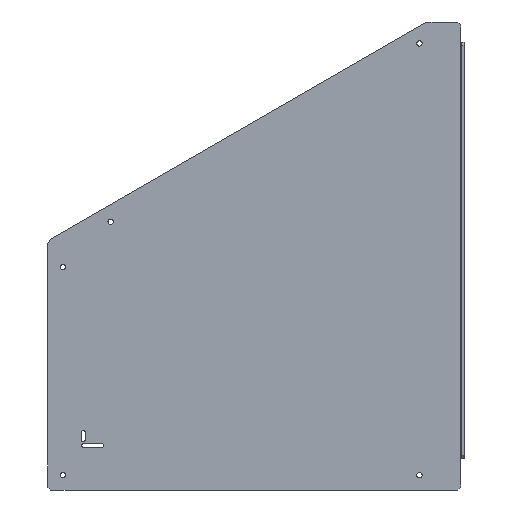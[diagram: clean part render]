
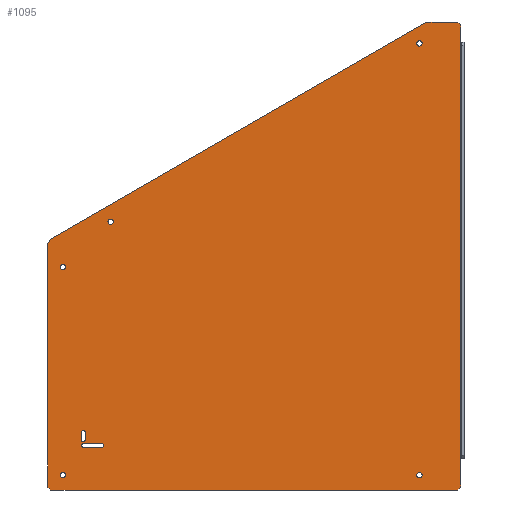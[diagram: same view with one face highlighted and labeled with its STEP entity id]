
A CAD part, front view. The second image highlights one B-rep face of the part: STEP entity #1095.
In plain terms, the highlighted planar face has unit normal (0, -1, 0).
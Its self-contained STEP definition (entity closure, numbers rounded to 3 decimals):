
#64=CIRCLE('',#1168,1.587);
#65=CIRCLE('',#1169,1.587);
#66=CIRCLE('',#1170,1.588);
#67=CIRCLE('',#1171,1.588);
#68=CIRCLE('',#1172,2.248);
#69=CIRCLE('',#1173,2.248);
#70=CIRCLE('',#1174,2.248);
#71=CIRCLE('',#1175,2.248);
#72=CIRCLE('',#1176,2.248);
#169=ORIENTED_EDGE('',*,*,#434,.T.);
#170=ORIENTED_EDGE('',*,*,#435,.T.);
#171=ORIENTED_EDGE('',*,*,#436,.T.);
#172=ORIENTED_EDGE('',*,*,#437,.T.);
#173=ORIENTED_EDGE('',*,*,#438,.T.);
#174=ORIENTED_EDGE('',*,*,#439,.T.);
#175=ORIENTED_EDGE('',*,*,#440,.T.);
#176=ORIENTED_EDGE('',*,*,#441,.T.);
#177=ORIENTED_EDGE('',*,*,#442,.T.);
#178=ORIENTED_EDGE('',*,*,#443,.T.);
#179=ORIENTED_EDGE('',*,*,#444,.T.);
#180=ORIENTED_EDGE('',*,*,#445,.T.);
#181=ORIENTED_EDGE('',*,*,#446,.T.);
#182=ORIENTED_EDGE('',*,*,#447,.F.);
#183=ORIENTED_EDGE('',*,*,#448,.T.);
#184=ORIENTED_EDGE('',*,*,#407,.F.);
#185=ORIENTED_EDGE('',*,*,#449,.T.);
#186=ORIENTED_EDGE('',*,*,#405,.F.);
#187=ORIENTED_EDGE('',*,*,#450,.T.);
#188=ORIENTED_EDGE('',*,*,#395,.F.);
#189=ORIENTED_EDGE('',*,*,#451,.F.);
#190=ORIENTED_EDGE('',*,*,#401,.F.);
#191=ORIENTED_EDGE('',*,*,#452,.T.);
#192=ORIENTED_EDGE('',*,*,#411,.F.);
#395=EDGE_CURVE('',#530,#531,#638,.T.);
#401=EDGE_CURVE('',#536,#537,#644,.T.);
#405=EDGE_CURVE('',#540,#541,#648,.T.);
#407=EDGE_CURVE('',#542,#543,#650,.T.);
#411=EDGE_CURVE('',#546,#547,#654,.T.);
#434=EDGE_CURVE('',#564,#565,#668,.T.);
#435=EDGE_CURVE('',#565,#566,#64,.T.);
#436=EDGE_CURVE('',#566,#567,#669,.T.);
#437=EDGE_CURVE('',#567,#564,#65,.T.);
#438=EDGE_CURVE('',#568,#569,#670,.T.);
#439=EDGE_CURVE('',#569,#570,#66,.T.);
#440=EDGE_CURVE('',#570,#571,#671,.T.);
#441=EDGE_CURVE('',#571,#568,#67,.T.);
#442=EDGE_CURVE('',#572,#572,#68,.T.);
#443=EDGE_CURVE('',#573,#573,#69,.T.);
#444=EDGE_CURVE('',#574,#574,#70,.T.);
#445=EDGE_CURVE('',#575,#575,#71,.T.);
#446=EDGE_CURVE('',#576,#576,#72,.T.);
#447=EDGE_CURVE('',#577,#546,#672,.T.);
#448=EDGE_CURVE('',#577,#543,#673,.F.);
#449=EDGE_CURVE('',#542,#541,#674,.F.);
#450=EDGE_CURVE('',#540,#531,#675,.F.);
#451=EDGE_CURVE('',#537,#530,#676,.F.);
#452=EDGE_CURVE('',#536,#547,#677,.F.);
#530=VERTEX_POINT('',#1606);
#531=VERTEX_POINT('',#1607);
#536=VERTEX_POINT('',#1618);
#537=VERTEX_POINT('',#1620);
#540=VERTEX_POINT('',#1627);
#541=VERTEX_POINT('',#1629);
#542=VERTEX_POINT('',#1633);
#543=VERTEX_POINT('',#1634);
#546=VERTEX_POINT('',#1642);
#547=VERTEX_POINT('',#1643);
#564=VERTEX_POINT('',#1685);
#565=VERTEX_POINT('',#1686);
#566=VERTEX_POINT('',#1688);
#567=VERTEX_POINT('',#1690);
#568=VERTEX_POINT('',#1693);
#569=VERTEX_POINT('',#1694);
#570=VERTEX_POINT('',#1696);
#571=VERTEX_POINT('',#1698);
#572=VERTEX_POINT('',#1701);
#573=VERTEX_POINT('',#1703);
#574=VERTEX_POINT('',#1705);
#575=VERTEX_POINT('',#1707);
#576=VERTEX_POINT('',#1709);
#577=VERTEX_POINT('',#1711);
#638=LINE('',#1605,#703);
#644=LINE('',#1619,#709);
#648=LINE('',#1628,#713);
#650=LINE('',#1632,#715);
#654=LINE('',#1641,#719);
#668=LINE('',#1684,#733);
#669=LINE('',#1689,#734);
#670=LINE('',#1692,#735);
#671=LINE('',#1697,#736);
#672=LINE('',#1710,#737);
#673=LINE('',#1712,#738);
#674=LINE('',#1713,#739);
#675=LINE('',#1714,#740);
#676=LINE('',#1715,#741);
#677=LINE('',#1716,#742);
#703=VECTOR('',#1284,1000.);
#709=VECTOR('',#1292,1000.);
#713=VECTOR('',#1298,1000.);
#715=VECTOR('',#1302,1000.);
#719=VECTOR('',#1308,1000.);
#733=VECTOR('',#1344,1000.);
#734=VECTOR('',#1347,1000.);
#735=VECTOR('',#1350,1000.);
#736=VECTOR('',#1353,1000.);
#737=VECTOR('',#1366,1000.);
#738=VECTOR('',#1367,1000.);
#739=VECTOR('',#1368,1000.);
#740=VECTOR('',#1369,1000.);
#741=VECTOR('',#1370,1000.);
#742=VECTOR('',#1371,1000.);
#781=EDGE_LOOP('',(#169,#170,#171,#172));
#782=EDGE_LOOP('',(#173,#174,#175,#176));
#783=EDGE_LOOP('',(#177));
#784=EDGE_LOOP('',(#178));
#785=EDGE_LOOP('',(#179));
#786=EDGE_LOOP('',(#180));
#787=EDGE_LOOP('',(#181));
#788=EDGE_LOOP('',(#182,#183,#184,#185,#186,#187,#188,#189,#190,#191,#192));
#930=FACE_BOUND('',#781,.T.);
#931=FACE_BOUND('',#782,.T.);
#932=FACE_BOUND('',#783,.T.);
#933=FACE_BOUND('',#784,.T.);
#934=FACE_BOUND('',#785,.T.);
#935=FACE_BOUND('',#786,.T.);
#936=FACE_BOUND('',#787,.T.);
#937=FACE_BOUND('',#788,.T.);
#1072=PLANE('',#1167);
#1095=ADVANCED_FACE('',(#930,#931,#932,#933,#934,#935,#936,#937),#1072,
 .F.);
#1167=AXIS2_PLACEMENT_3D('',#1683,#1342,#1343);
#1168=AXIS2_PLACEMENT_3D('',#1687,#1345,#1346);
#1169=AXIS2_PLACEMENT_3D('',#1691,#1348,#1349);
#1170=AXIS2_PLACEMENT_3D('',#1695,#1351,#1352);
#1171=AXIS2_PLACEMENT_3D('',#1699,#1354,#1355);
#1172=AXIS2_PLACEMENT_3D('',#1700,#1356,#1357);
#1173=AXIS2_PLACEMENT_3D('',#1702,#1358,#1359);
#1174=AXIS2_PLACEMENT_3D('',#1704,#1360,#1361);
#1175=AXIS2_PLACEMENT_3D('',#1706,#1362,#1363);
#1176=AXIS2_PLACEMENT_3D('',#1708,#1364,#1365);
#1284=DIRECTION('',(0.,0.,-1.));
#1292=DIRECTION('',(0.,0.,-1.));
#1298=DIRECTION('',(-1.,0.,0.));
#1302=DIRECTION('',(0.,0.,1.));
#1308=DIRECTION('',(1.,0.,0.));
#1342=DIRECTION('',(0.,1.,0.));
#1343=DIRECTION('',(0.,0.,1.));
#1344=DIRECTION('',(-1.,0.,0.));
#1345=DIRECTION('',(0.,1.,0.));
#1346=DIRECTION('',(0.,0.,1.));
#1347=DIRECTION('',(1.,0.,0.));
#1348=DIRECTION('',(0.,1.,0.));
#1349=DIRECTION('',(0.,0.,1.));
#1350=DIRECTION('',(0.,0.,1.));
#1351=DIRECTION('',(0.,1.,0.));
#1352=DIRECTION('',(0.,0.,1.));
#1353=DIRECTION('',(0.,0.,-1.));
#1354=DIRECTION('',(0.,1.,0.));
#1355=DIRECTION('',(0.,0.,1.));
#1356=DIRECTION('',(0.,1.,0.));
#1357=DIRECTION('',(0.,0.,1.));
#1358=DIRECTION('',(0.,1.,0.));
#1359=DIRECTION('',(0.,0.,1.));
#1360=DIRECTION('',(0.,1.,0.));
#1361=DIRECTION('',(0.,0.,1.));
#1362=DIRECTION('',(0.,1.,0.));
#1363=DIRECTION('',(0.,0.,1.));
#1364=DIRECTION('',(0.,1.,0.));
#1365=DIRECTION('',(0.,0.,1.));
#1366=DIRECTION('',(0.866,0.,0.5));
#1367=DIRECTION('',(0.5,0.,0.866));
#1368=DIRECTION('',(-0.707,0.,0.707));
#1369=DIRECTION('',(-0.707,0.,-0.707));
#1370=DIRECTION('',(0.,0.,1.));
#1371=DIRECTION('',(0.707,0.,-0.707));
#1605=CARTESIAN_POINT('',(176.428,0.,200.025));
#1606=CARTESIAN_POINT('',(176.428,0.,-173.038));
#1607=CARTESIAN_POINT('',(176.428,0.,-197.485));
#1618=CARTESIAN_POINT('',(176.428,0.,197.485));
#1619=CARTESIAN_POINT('',(176.428,0.,200.025));
#1620=CARTESIAN_POINT('',(176.428,0.,182.563));
#1627=CARTESIAN_POINT('',(173.888,0.,-200.025));
#1628=CARTESIAN_POINT('',(176.428,0.,-200.025));
#1629=CARTESIAN_POINT('',(-173.888,0.,-200.025));
#1632=CARTESIAN_POINT('',(-176.428,0.,-200.025));
#1633=CARTESIAN_POINT('',(-176.428,0.,-197.485));
#1634=CARTESIAN_POINT('',(-176.428,0.,10.51));
#1641=CARTESIAN_POINT('',(-176.428,0.,200.025));
#1642=CARTESIAN_POINT('',(147.422,0.,200.025));
#1643=CARTESIAN_POINT('',(173.888,0.,200.025));
#1683=CARTESIAN_POINT('',(0.,0.,0.));
#1684=CARTESIAN_POINT('',(0.,0.,-163.513));
#1685=CARTESIAN_POINT('',(-130.391,0.,-163.513));
#1686=CARTESIAN_POINT('',(-146.266,0.,-163.513));
#1687=CARTESIAN_POINT('',(-146.266,0.,-161.925));
#1688=CARTESIAN_POINT('',(-146.266,0.,-160.338));
#1689=CARTESIAN_POINT('',(0.,0.,-160.338));
#1690=CARTESIAN_POINT('',(-130.391,0.,-160.338));
#1691=CARTESIAN_POINT('',(-130.391,0.,-161.925));
#1692=CARTESIAN_POINT('',(-147.853,0.,0.));
#1693=CARTESIAN_POINT('',(-147.853,0.,-157.15));
#1694=CARTESIAN_POINT('',(-147.853,0.,-150.8));
#1695=CARTESIAN_POINT('',(-146.266,0.,-150.8));
#1696=CARTESIAN_POINT('',(-144.678,0.,-150.8));
#1697=CARTESIAN_POINT('',(-144.678,0.,0.));
#1698=CARTESIAN_POINT('',(-144.678,0.,-157.15));
#1699=CARTESIAN_POINT('',(-146.266,0.,-157.15));
#1700=CARTESIAN_POINT('',(-163.728,0.,-9.525));
#1701=CARTESIAN_POINT('',(-163.728,0.,-7.277));
#1702=CARTESIAN_POINT('',(-122.893,0.,29.294));
#1703=CARTESIAN_POINT('',(-122.893,0.,31.542));
#1704=CARTESIAN_POINT('',(141.072,0.,181.694));
#1705=CARTESIAN_POINT('',(141.072,0.,183.942));
#1706=CARTESIAN_POINT('',(141.072,0.,-187.325));
#1707=CARTESIAN_POINT('',(141.072,0.,-185.077));
#1708=CARTESIAN_POINT('',(-163.728,0.,-187.325));
#1709=CARTESIAN_POINT('',(-163.728,0.,-185.077));
#1710=CARTESIAN_POINT('',(-176.428,0.,13.05));
#1711=CARTESIAN_POINT('',(-174.229,0.,14.32));
#1712=CARTESIAN_POINT('',(-174.229,0.,14.32));
#1713=CARTESIAN_POINT('',(-176.428,0.,-197.485));
#1714=CARTESIAN_POINT('',(173.888,0.,-200.025));
#1715=CARTESIAN_POINT('',(176.428,0.,-200.025));
#1716=CARTESIAN_POINT('',(176.428,0.,197.485));
